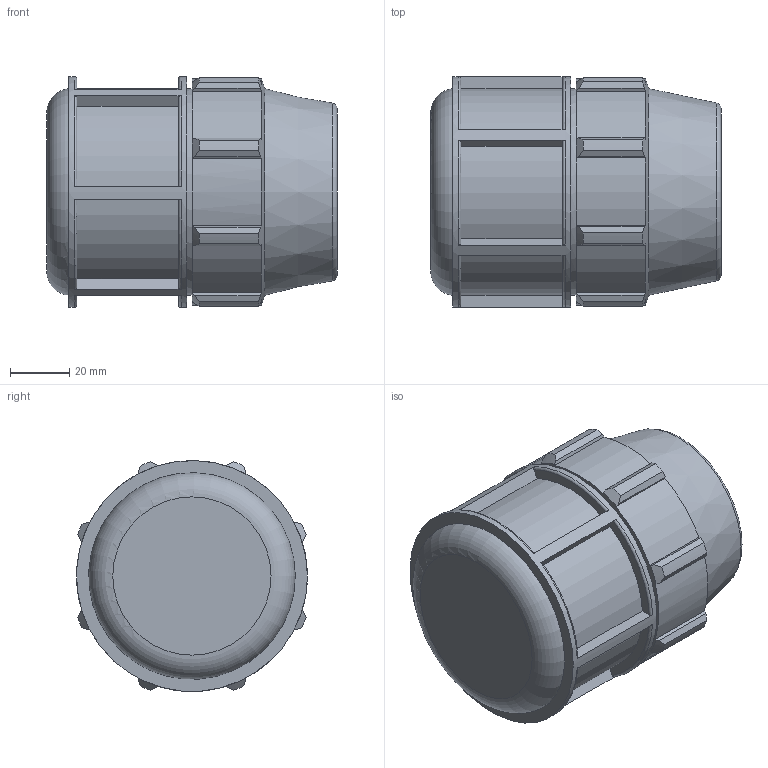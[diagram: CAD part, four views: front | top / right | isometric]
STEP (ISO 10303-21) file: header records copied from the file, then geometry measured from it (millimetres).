
FILE_DESCRIPTION(/* description */ ('PLASSON END PLUG 1 1/4'''''),/* implementation_level */ '2;1');
FILE_NAME(/* name */ 'C:\Dropbox\KIMPROJECTS-Inventor 2019\99-16-3568-Processing Inch\ASTM Compression 2021\0712M0\0712M0130.ipt.stp',/* time_stamp */ '2021-08-26T12:33:15+03:00',/* author */ ('Кирилл'),/* organization */ (''),/* preprocessor_version */ 'ST-DEVELOPER v17.2',/* originating_system */ 'Autodesk Inventor 2019',/* authorisation */ '');
FILE_SCHEMA (('AUTOMOTIVE_DESIGN { 1 0 10303 214 3 1 1 }'));
Length unit declared in the file: inch
Products named in the file (1): 0712M0130
Bounding box: 98.04 x 77.9 x 77.94 mm (x, y, z)
Volume: 263070.5 mm3; surface area: 46772.6 mm2
Topology: 1 solids, 1 shells, 115 faces, 317 edges, 215 vertices
Faces by surface type: plane 63, cylinder 25, torus 15, cone 12
Full cylindrical faces by diameter (mm): 42.1 x1, 69.736 x1, 77.94 x1
Entity records: 4019 total; most frequent: CARTESIAN_POINT 928, ORIENTED_EDGE 634, DIRECTION 603, EDGE_CURVE 317, AXIS2_PLACEMENT_3D 226, VERTEX_POINT 215, LINE 151, VECTOR 151
